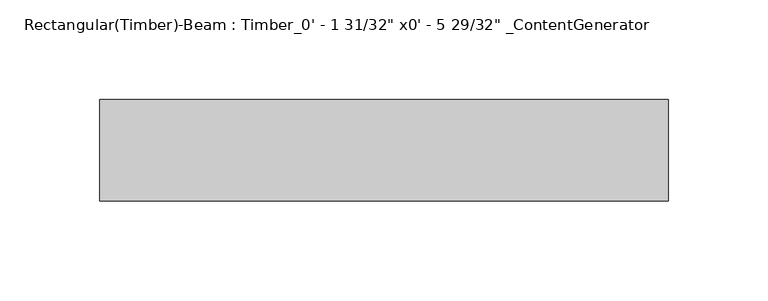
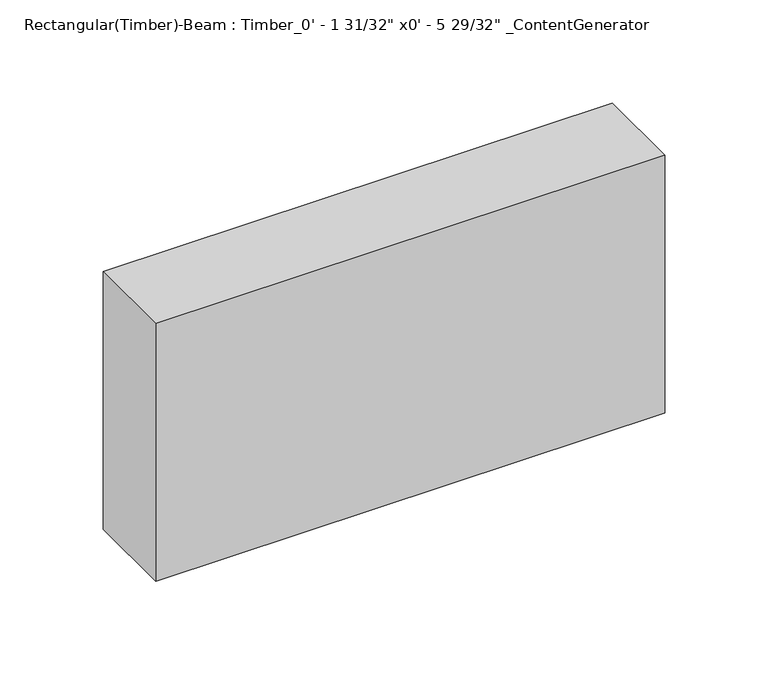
"""IFC4 building model written with IfcOpenShell, lengths in millimetres: beam geometry."""

from ifc_helpers import new_model, si_unit, frame, origin, place, context, project, spatial, polyline, outline, extrude, source, transform, mapped, element, save


def beam_63ceb731(model_context):
    return source(origin(), model_context, "Body", "SweptSolid", [
        extrude(outline(polyline([(154.9399864, 25.4), (154.9399864, -25.4), (-129.539987, -25.4), (-129.539987, 25.4), (154.9399864, 25.4)])), frame((0.0, 0.0, -76.2), z_axis=(0.0, 0.0, 1.0), x_axis=(1.0, 0.0, 0.0)), (0.0, 0.0, 1.0), 152.4),
    ])


if __name__ == "__main__":
    model = new_model("IFC4")
    model_context = context("Model", 3, world=origin())
    ifc_project = project(units=[si_unit("LENGTHUNIT", "METRE", prefix="MILLI")], contexts=[model_context])
    site = spatial("IfcSite", under=ifc_project)
    building = spatial("IfcBuilding", under=site)
    placement = place(None, origin())
    beam_shape = beam_63ceb731(model_context)
    element("IfcBeam", 1, ObjectType="Rectangular(Timber)-Beam : Timber_0' - 1 31/32\" x0' - 5 29/32\" _ContentGenerator", at=placement, inside=building, context=model_context, shape_type="MappedRepresentation", body=[
        mapped(beam_shape, transform((0.0, 0.0, 0.0), x_axis=(1.0, 0.0, 0.0), y_axis=(0.0, 1.0, 0.0), z_axis=(0.0, 0.0, 1.0))),
    ])
    save(model, "model.ifc")
